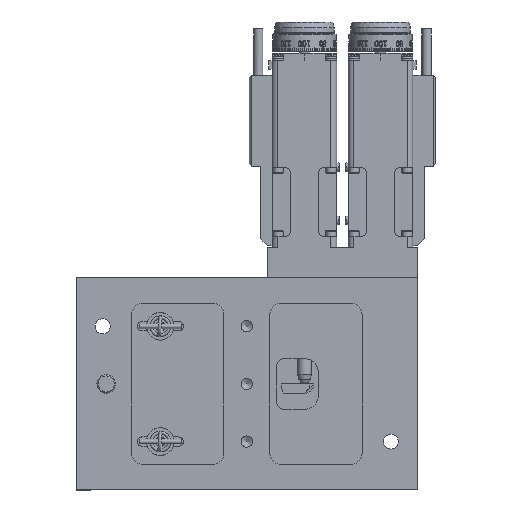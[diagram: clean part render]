
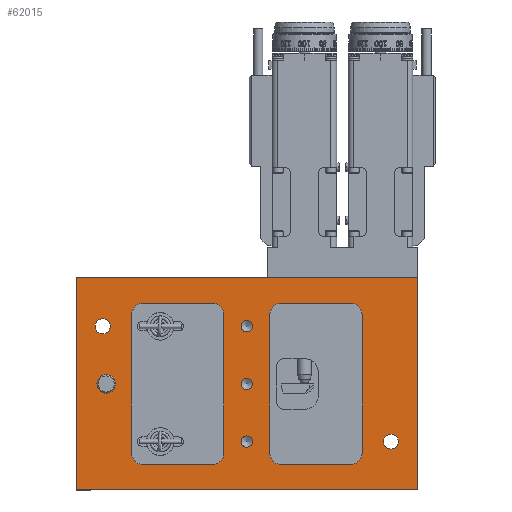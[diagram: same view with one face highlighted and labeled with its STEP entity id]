
A CAD part, front view. The second image highlights one B-rep face of the part: STEP entity #62015.
In plain terms, the highlighted planar face has unit normal (0, -1, 0).
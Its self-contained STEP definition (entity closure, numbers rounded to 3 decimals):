
#3382=LINE($,#87341,#8496);
#3576=LINE($,#87979,#8690);
#3582=LINE($,#88000,#8696);
#3588=LINE($,#88016,#8702);
#3594=LINE($,#88037,#8708);
#3600=LINE($,#88056,#8714);
#3601=LINE($,#88058,#8715);
#3602=LINE($,#88060,#8716);
#3603=LINE($,#88062,#8717);
#3623=LINE($,#88111,#8737);
#3628=LINE($,#88119,#8742);
#3631=LINE($,#88124,#8745);
#8496=VECTOR($,#70941,148.);
#8690=VECTOR($,#71525,60.);
#8696=VECTOR($,#71545,60.);
#8702=VECTOR($,#71559,60.);
#8708=VECTOR($,#71579,60.);
#8714=VECTOR($,#71603,30.);
#8715=VECTOR($,#71606,30.);
#8716=VECTOR($,#71609,30.);
#8717=VECTOR($,#71612,30.);
#8737=VECTOR($,#71660,92.);
#8742=VECTOR($,#71667,92.);
#8745=VECTOR($,#71672,148.);
#14626=FACE_BOUND($,#19355,.T.);
#14627=FACE_BOUND($,#19356,.T.);
#14628=FACE_BOUND($,#19357,.T.);
#14629=FACE_BOUND($,#19358,.T.);
#14630=FACE_BOUND($,#19359,.T.);
#14631=FACE_BOUND($,#19360,.T.);
#14632=FACE_BOUND($,#19361,.T.);
#14633=FACE_BOUND($,#19362,.T.);
#14634=FACE_BOUND($,#19363,.T.);
#19355=EDGE_LOOP($,(#42252));
#19356=EDGE_LOOP($,(#42253));
#19357=EDGE_LOOP($,(#42254));
#19358=EDGE_LOOP($,(#42255));
#19359=EDGE_LOOP($,(#42256));
#19360=EDGE_LOOP($,(#42257));
#19361=EDGE_LOOP($,(#42258,#42259,#42260,#42261,#42262,#42263,#42264,#42265));
#19362=EDGE_LOOP($,(#42266,#42267,#42268,#42269,#42270,#42271,#42272,#42273));
#19363=EDGE_LOOP($,(#42274,#42275,#42276,#42277));
#23517=CIRCLE($,#65842,4.);
#23526=CIRCLE($,#65857,2.459);
#23528=CIRCLE($,#65861,2.459);
#23530=CIRCLE($,#65865,2.459);
#23533=CIRCLE($,#65871,3.25);
#23536=CIRCLE($,#65877,3.25);
#23561=CIRCLE($,#65927,5.);
#23563=CIRCLE($,#65931,5.);
#23567=CIRCLE($,#65938,5.);
#23569=CIRCLE($,#65942,5.);
#23572=CIRCLE($,#65948,5.);
#23573=CIRCLE($,#65950,5.);
#23574=CIRCLE($,#65952,5.);
#23575=CIRCLE($,#65954,5.);
#25528=VERTEX_POINT($,#87338);
#25529=VERTEX_POINT($,#87340);
#25667=VERTEX_POINT($,#87760);
#25681=VERTEX_POINT($,#87798);
#25683=VERTEX_POINT($,#87804);
#25685=VERTEX_POINT($,#87810);
#25688=VERTEX_POINT($,#87819);
#25691=VERTEX_POINT($,#87828);
#25739=VERTEX_POINT($,#87969);
#25740=VERTEX_POINT($,#87971);
#25742=VERTEX_POINT($,#87977);
#25745=VERTEX_POINT($,#87984);
#25746=VERTEX_POINT($,#87986);
#25750=VERTEX_POINT($,#87999);
#25753=VERTEX_POINT($,#88006);
#25754=VERTEX_POINT($,#88008);
#25756=VERTEX_POINT($,#88014);
#25759=VERTEX_POINT($,#88021);
#25760=VERTEX_POINT($,#88023);
#25764=VERTEX_POINT($,#88036);
#25765=VERTEX_POINT($,#88040);
#25766=VERTEX_POINT($,#88044);
#25767=VERTEX_POINT($,#88048);
#25768=VERTEX_POINT($,#88052);
#25783=VERTEX_POINT($,#88110);
#25785=VERTEX_POINT($,#88118);
#31951=EDGE_CURVE($,#25528,#25529,#3382,.T.);
#32145=EDGE_CURVE($,#25667,#25667,#23517,.T.);
#32163=EDGE_CURVE($,#25681,#25681,#23526,.T.);
#32165=EDGE_CURVE($,#25683,#25683,#23528,.T.);
#32167=EDGE_CURVE($,#25685,#25685,#23530,.T.);
#32170=EDGE_CURVE($,#25688,#25688,#23533,.T.);
#32173=EDGE_CURVE($,#25691,#25691,#23536,.T.);
#32242=EDGE_CURVE($,#25739,#25740,#23561,.T.);
#32246=EDGE_CURVE($,#25739,#25742,#3576,.T.);
#32249=EDGE_CURVE($,#25745,#25746,#23563,.T.);
#32256=EDGE_CURVE($,#25750,#25746,#3582,.T.);
#32260=EDGE_CURVE($,#25753,#25754,#23567,.T.);
#32264=EDGE_CURVE($,#25753,#25756,#3588,.T.);
#32267=EDGE_CURVE($,#25759,#25760,#23569,.T.);
#32274=EDGE_CURVE($,#25764,#25760,#3594,.T.);
#32276=EDGE_CURVE($,#25764,#25765,#23572,.T.);
#32279=EDGE_CURVE($,#25766,#25756,#23573,.T.);
#32280=EDGE_CURVE($,#25750,#25767,#23574,.T.);
#32283=EDGE_CURVE($,#25768,#25742,#23575,.T.);
#32284=EDGE_CURVE($,#25745,#25740,#3600,.T.);
#32285=EDGE_CURVE($,#25768,#25767,#3601,.T.);
#32286=EDGE_CURVE($,#25759,#25754,#3602,.T.);
#32287=EDGE_CURVE($,#25766,#25765,#3603,.T.);
#32311=EDGE_CURVE($,#25529,#25783,#3623,.T.);
#32316=EDGE_CURVE($,#25785,#25528,#3628,.T.);
#32319=EDGE_CURVE($,#25783,#25785,#3631,.T.);
#42252=ORIENTED_EDGE($,*,*,#32163,.T.);
#42253=ORIENTED_EDGE($,*,*,#32165,.T.);
#42254=ORIENTED_EDGE($,*,*,#32167,.T.);
#42255=ORIENTED_EDGE($,*,*,#32170,.T.);
#42256=ORIENTED_EDGE($,*,*,#32173,.T.);
#42257=ORIENTED_EDGE($,*,*,#32145,.T.);
#42258=ORIENTED_EDGE($,*,*,#32246,.T.);
#42259=ORIENTED_EDGE($,*,*,#32283,.F.);
#42260=ORIENTED_EDGE($,*,*,#32285,.T.);
#42261=ORIENTED_EDGE($,*,*,#32280,.F.);
#42262=ORIENTED_EDGE($,*,*,#32256,.T.);
#42263=ORIENTED_EDGE($,*,*,#32249,.F.);
#42264=ORIENTED_EDGE($,*,*,#32284,.T.);
#42265=ORIENTED_EDGE($,*,*,#32242,.F.);
#42266=ORIENTED_EDGE($,*,*,#32264,.T.);
#42267=ORIENTED_EDGE($,*,*,#32279,.F.);
#42268=ORIENTED_EDGE($,*,*,#32287,.T.);
#42269=ORIENTED_EDGE($,*,*,#32276,.F.);
#42270=ORIENTED_EDGE($,*,*,#32274,.T.);
#42271=ORIENTED_EDGE($,*,*,#32267,.F.);
#42272=ORIENTED_EDGE($,*,*,#32286,.T.);
#42273=ORIENTED_EDGE($,*,*,#32260,.F.);
#42274=ORIENTED_EDGE($,*,*,#32319,.F.);
#42275=ORIENTED_EDGE($,*,*,#32311,.F.);
#42276=ORIENTED_EDGE($,*,*,#31951,.F.);
#42277=ORIENTED_EDGE($,*,*,#32316,.F.);
#59995=PLANE($,#65976);
#62015=ADVANCED_FACE($,(#14626,#14627,#14628,#14629,#14630,#14631,#14632,
#14633,#14634),#59995,.F.);
#65842=AXIS2_PLACEMENT_3D($,#87761,#71295,#71296);
#65857=AXIS2_PLACEMENT_3D($,#87799,#71334,#71335);
#65861=AXIS2_PLACEMENT_3D($,#87805,#71342,#71343);
#65865=AXIS2_PLACEMENT_3D($,#87811,#71350,#71351);
#65871=AXIS2_PLACEMENT_3D($,#87820,#71362,#71363);
#65877=AXIS2_PLACEMENT_3D($,#87829,#71374,#71375);
#65927=AXIS2_PLACEMENT_3D($,#87972,#71518,#71519);
#65931=AXIS2_PLACEMENT_3D($,#87987,#71531,#71532);
#65938=AXIS2_PLACEMENT_3D($,#88009,#71552,#71553);
#65942=AXIS2_PLACEMENT_3D($,#88024,#71565,#71566);
#65948=AXIS2_PLACEMENT_3D($,#88041,#71583,#71584);
#65950=AXIS2_PLACEMENT_3D($,#88046,#71589,#71590);
#65952=AXIS2_PLACEMENT_3D($,#88049,#71593,#71594);
#65954=AXIS2_PLACEMENT_3D($,#88054,#71599,#71600);
#65976=AXIS2_PLACEMENT_3D($,#88127,#71676,#71677);
#70941=DIRECTION($,(1.,0.,0.));
#71295=DIRECTION('center_axis',(0.,1.,0.));
#71296=DIRECTION('ref_axis',(1.,0.,0.));
#71334=DIRECTION('center_axis',(0.,1.,0.));
#71335=DIRECTION('ref_axis',(1.,0.,0.));
#71342=DIRECTION('center_axis',(0.,1.,0.));
#71343=DIRECTION('ref_axis',(1.,0.,0.));
#71350=DIRECTION('center_axis',(0.,1.,0.));
#71351=DIRECTION('ref_axis',(1.,0.,0.));
#71362=DIRECTION('center_axis',(0.,1.,0.));
#71363=DIRECTION('ref_axis',(1.,0.,0.));
#71374=DIRECTION('center_axis',(0.,1.,0.));
#71375=DIRECTION('ref_axis',(1.,0.,0.));
#71518=DIRECTION('center_axis',(0.,-1.,0.));
#71519=DIRECTION('ref_axis',(-0.707,0.,-0.707));
#71525=DIRECTION($,(0.,0.,1.));
#71531=DIRECTION('center_axis',(0.,-1.,0.));
#71532=DIRECTION('ref_axis',(0.707,0.,-0.707));
#71545=DIRECTION($,(0.,0.,-1.));
#71552=DIRECTION('center_axis',(0.,-1.,0.));
#71553=DIRECTION('ref_axis',(-0.707,0.,-0.707));
#71559=DIRECTION($,(0.,0.,1.));
#71565=DIRECTION('center_axis',(0.,-1.,0.));
#71566=DIRECTION('ref_axis',(0.707,0.,-0.707));
#71579=DIRECTION($,(0.,0.,-1.));
#71583=DIRECTION('center_axis',(0.,-1.,0.));
#71584=DIRECTION('ref_axis',(0.707,0.,0.707));
#71589=DIRECTION('center_axis',(0.,-1.,0.));
#71590=DIRECTION('ref_axis',(-0.707,0.,0.707));
#71593=DIRECTION('center_axis',(0.,-1.,0.));
#71594=DIRECTION('ref_axis',(0.707,0.,0.707));
#71599=DIRECTION('center_axis',(0.,-1.,0.));
#71600=DIRECTION('ref_axis',(-0.707,0.,0.707));
#71603=DIRECTION($,(-1.,0.,0.));
#71606=DIRECTION($,(1.,0.,0.));
#71609=DIRECTION($,(-1.,0.,0.));
#71612=DIRECTION($,(1.,0.,0.));
#71660=DIRECTION($,(0.,0.,-1.));
#71667=DIRECTION($,(0.,0.,1.));
#71672=DIRECTION($,(-1.,0.,0.));
#71676=DIRECTION('center_axis',(0.,1.,0.));
#71677=DIRECTION('ref_axis',(0.,0.,1.));
#87338=CARTESIAN_POINT('',(0.,3.,95.));
#87340=CARTESIAN_POINT('',(148.,3.,95.));
#87341=CARTESIAN_POINT($,(0.,3.,95.));
#87760=CARTESIAN_POINT('',(9.,3.,49.));
#87761=CARTESIAN_POINT('Origin',(13.,3.,49.));
#87798=CARTESIAN_POINT('',(76.459,3.,49.));
#87799=CARTESIAN_POINT('Origin',(74.,3.,49.));
#87804=CARTESIAN_POINT('',(76.459,3.,74.));
#87805=CARTESIAN_POINT('Origin',(74.,3.,74.));
#87810=CARTESIAN_POINT('',(76.459,3.,24.));
#87811=CARTESIAN_POINT('Origin',(74.,3.,24.));
#87819=CARTESIAN_POINT('',(133.25,3.,24.));
#87820=CARTESIAN_POINT('Origin',(136.5,3.,24.));
#87828=CARTESIAN_POINT('',(8.25,3.,74.));
#87829=CARTESIAN_POINT('Origin',(11.5,3.,74.));
#87969=CARTESIAN_POINT('',(24.,3.,19.));
#87971=CARTESIAN_POINT('',(29.,3.,14.));
#87972=CARTESIAN_POINT('Origin',(29.,3.,19.));
#87977=CARTESIAN_POINT('',(24.,3.,79.));
#87979=CARTESIAN_POINT($,(24.,3.,31.5));
#87984=CARTESIAN_POINT('',(59.,3.,14.));
#87986=CARTESIAN_POINT('',(64.,3.,19.));
#87987=CARTESIAN_POINT('Origin',(59.,3.,19.));
#87999=CARTESIAN_POINT('',(64.,3.,79.));
#88000=CARTESIAN_POINT($,(64.,3.,66.5));
#88006=CARTESIAN_POINT('',(84.,3.,19.));
#88008=CARTESIAN_POINT('',(89.,3.,14.));
#88009=CARTESIAN_POINT('Origin',(89.,3.,19.));
#88014=CARTESIAN_POINT('',(84.,3.,79.));
#88016=CARTESIAN_POINT($,(84.,3.,31.5));
#88021=CARTESIAN_POINT('',(119.,3.,14.));
#88023=CARTESIAN_POINT('',(124.,3.,19.));
#88024=CARTESIAN_POINT('Origin',(119.,3.,19.));
#88036=CARTESIAN_POINT('',(124.,3.,79.));
#88037=CARTESIAN_POINT($,(124.,3.,66.5));
#88040=CARTESIAN_POINT('',(119.,3.,84.));
#88041=CARTESIAN_POINT('Origin',(119.,3.,79.));
#88044=CARTESIAN_POINT('',(89.,3.,84.));
#88046=CARTESIAN_POINT('Origin',(89.,3.,79.));
#88048=CARTESIAN_POINT('',(59.,3.,84.));
#88049=CARTESIAN_POINT('Origin',(59.,3.,79.));
#88052=CARTESIAN_POINT('',(29.,3.,84.));
#88054=CARTESIAN_POINT('Origin',(29.,3.,79.));
#88056=CARTESIAN_POINT($,(69.,3.,14.));
#88058=CARTESIAN_POINT($,(49.,3.,84.));
#88060=CARTESIAN_POINT($,(99.,3.,14.));
#88062=CARTESIAN_POINT($,(79.,3.,84.));
#88110=CARTESIAN_POINT('',(148.,3.,3.));
#88111=CARTESIAN_POINT($,(148.,3.,95.));
#88118=CARTESIAN_POINT('',(0.,3.,3.));
#88119=CARTESIAN_POINT($,(0.,3.,3.));
#88124=CARTESIAN_POINT($,(148.,3.,3.));
#88127=CARTESIAN_POINT('Origin',(74.,3.,49.));
